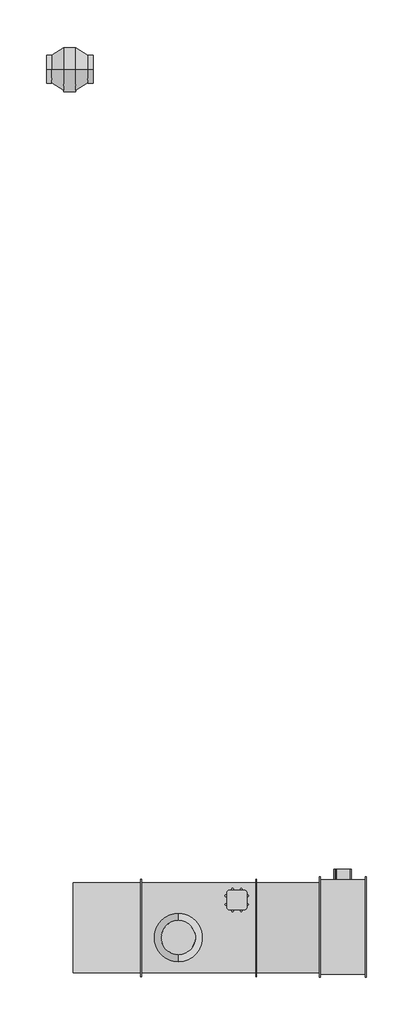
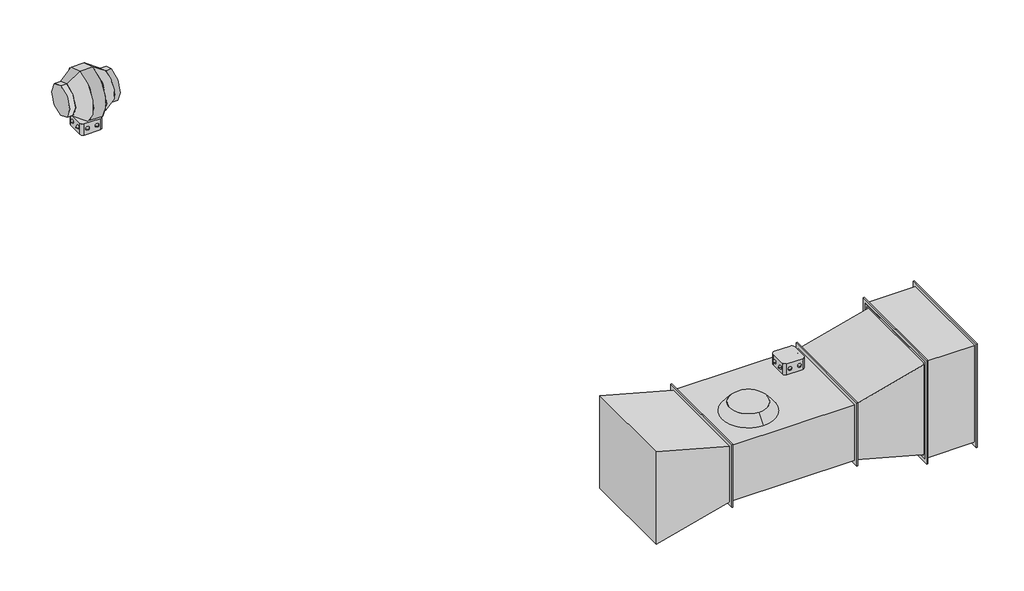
# One storey: 2 duct fittings, 2 proxies, 1 damper.
"""IFC4 building model written with IfcOpenShell, lengths in millimetres."""

from ifc_helpers import new_model, si_unit, origin, place, context, project, spatial, transform, mapped, element, save
from components import mechanical_equipment_77f2c57a, moon_lsg_160_de0f77c1, damper_b53475d5, duct_fitting_c8f7d042

model = new_model("IFC4")

# Units and contexts
model_context = context("Model", 3, world=origin())
ifc_project = project(units=[si_unit("LENGTHUNIT", "METRE", prefix="MILLI")], contexts=[model_context])

# Site, building, storey
site = spatial("IfcSite", under=ifc_project)
building = spatial("IfcBuilding", under=site)
storey = spatial("IfcBuildingStorey", under=building, Name="Уровень 2", Elevation=4000.0)

# Proxies
placement = place(None, origin())
mechanical_equipment_shape = mechanical_equipment_77f2c57a(model_context)
element("IfcBuildingElementProxy", 1, Name="Прямоугольный канальный вентилятор серия ВКП Лиссант : KTEX 50-25-4 Rect.fan (ATEX)", ObjectType="Прямоугольный канальный вентилятор серия ВКП Лиссант : KTEX 50-25-4 Rect.fan (ATEX)", at=placement, inside=storey, context=model_context, shape_type="MappedRepresentation", body=[
    mapped(mechanical_equipment_shape, transform((5953.8500425, 1991.9388418, 3605.9), x_axis=(-1.0, 0.0, 0.0), y_axis=(0.0, -1.0, 0.0), z_axis=(0.0, 0.0, 1.0))),
])
moon_lsg_160_shape = moon_lsg_160_de0f77c1(model_context)
element("IfcBuildingElementProxy", 2, Name="APMV_ГК МКС_Вентилятор канальный : Moon LSG 160", ObjectType="APMV_ГК МКС_Вентилятор канальный : Moon LSG 160", at=placement, inside=storey, context=model_context, shape_type="MappedRepresentation", body=[
    mapped(moon_lsg_160_shape, transform((5367.4586248, 6762.7758511, 2764.0438577), x_axis=(-1.0, 0.0, 0.0), y_axis=(0.0, 1.0, 0.0), z_axis=(0.0, 0.0, -1.0))),
])

# Damper
damper_shape = damper_b53475d5(model_context)
element("IfcDamper", 3, ObjectType="APMV_Виктория_КПВ.01_Морозостойкий_Прямоугольный_1 : КПВ.01МС-НЗ", at=placement, inside=storey, context=model_context, shape_type="MappedRepresentation", body=[
    mapped(damper_shape, transform((6755.0, 1997.0031371, 3605.9), x_axis=(-1.0, 0.0, 0.0), y_axis=(0.0, -1.0, 0.0), z_axis=(0.0, 0.0, 1.0))),
])

# Duct fittings
duct_fitting_shape = duct_fitting_c8f7d042(model_context)
element("IfcDuctFitting", 4, ObjectType="ADSK_ПереходникВоздуховодов_Прямоугольный : Стандартное", at=placement, inside=storey, context=model_context, shape_type="MappedRepresentation", body=[
    mapped(duct_fitting_shape, transform((5256.3500425, 1991.9388418, 3605.9), x_axis=(1.0, 0.0, 0.0), y_axis=(0.0, 1.0, 0.0), z_axis=(0.0, 0.0, 1.0))),
])
element("IfcDuctFitting", 5, ObjectType="ADSK_ПереходникВоздуховодов_Прямоугольный : Стандартное", at=placement, inside=storey, context=model_context, shape_type="MappedRepresentation", body=[
    mapped(duct_fitting_shape, transform((6651.3500425, 1991.9388418, 3605.9), x_axis=(-1.0, 0.0, 0.0), y_axis=(0.0, -1.0, 0.0), z_axis=(0.0, 0.0, 1.0))),
])

save(model, "model.ifc")
